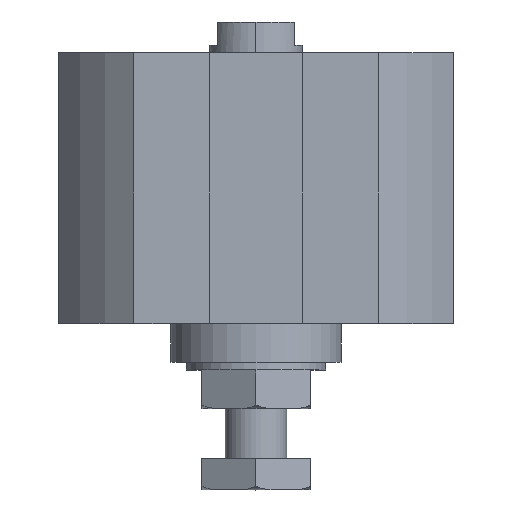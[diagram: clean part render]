
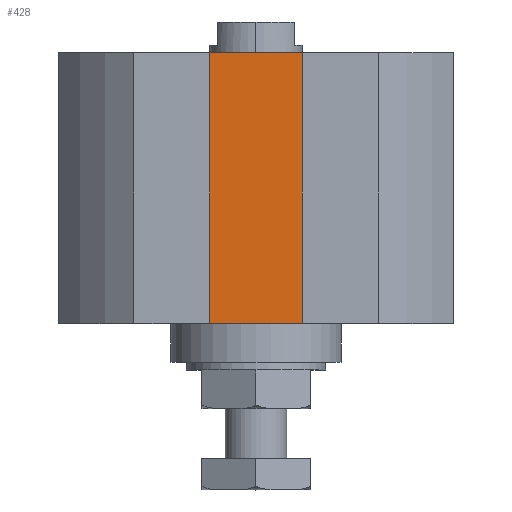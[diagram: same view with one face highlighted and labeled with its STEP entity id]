
A CAD part, top view. The second image highlights one B-rep face of the part: STEP entity #428.
In plain terms, the highlighted planar face has unit normal (0, 0, 1).
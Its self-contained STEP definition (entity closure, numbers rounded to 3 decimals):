
#15 = FACE_OUTER_BOUND ( 'NONE', #3223, .T. ) ;
#22 = VERTEX_POINT ( 'NONE', #347 ) ;
#36 = ORIENTED_EDGE ( 'NONE', *, *, #941, .F. ) ;
#263 = DIRECTION ( 'NONE',  ( 0., 0., 1. ) ) ;
#347 = CARTESIAN_POINT ( 'NONE',  ( -7.7, -35., 17. ) ) ;
#395 = CARTESIAN_POINT ( 'NONE',  ( 0., 0., 17. ) ) ;
#428 = ADVANCED_FACE ( 'NONE', ( #15 ), #1624, .T. ) ;
#649 = VECTOR ( 'NONE', #2411, 1000. ) ;
#701 = VECTOR ( 'NONE', #1878, 1000. ) ;
#752 = VECTOR ( 'NONE', #1763, 1000. ) ;
#916 = LINE ( 'NONE', #3576, #701 ) ;
#941 = EDGE_CURVE ( 'NONE', #22, #3235, #1238, .T. ) ;
#1112 = CARTESIAN_POINT ( 'NONE',  ( 7.7, -35., 17. ) ) ;
#1115 = CARTESIAN_POINT ( 'NONE',  ( 7.7, 0., 17. ) ) ;
#1238 = LINE ( 'NONE', #2081, #649 ) ;
#1264 = ORIENTED_EDGE ( 'NONE', *, *, #2543, .T. ) ;
#1437 = ORIENTED_EDGE ( 'NONE', *, *, #2079, .T. ) ;
#1624 = PLANE ( 'NONE',  #2007 ) ;
#1649 = CARTESIAN_POINT ( 'NONE',  ( -7.7, 0., 17. ) ) ;
#1763 = DIRECTION ( 'NONE',  ( 1., 0., 0. ) ) ;
#1869 = ORIENTED_EDGE ( 'NONE', *, *, #3129, .F. ) ;
#1878 = DIRECTION ( 'NONE',  ( 0., 1., 0. ) ) ;
#2007 = AXIS2_PLACEMENT_3D ( 'NONE', #3335, #263, #4128 ) ;
#2055 = VECTOR ( 'NONE', #3847, 1000. ) ;
#2079 = EDGE_CURVE ( 'NONE', #2488, #3792, #916, .T. ) ;
#2081 = CARTESIAN_POINT ( 'NONE',  ( -7.7, -35., 17. ) ) ;
#2411 = DIRECTION ( 'NONE',  ( 0., 1., 0. ) ) ;
#2488 = VERTEX_POINT ( 'NONE', #1112 ) ;
#2541 = LINE ( 'NONE', #395, #2055 ) ;
#2543 = EDGE_CURVE ( 'NONE', #22, #2488, #3844, .T. ) ;
#3129 = EDGE_CURVE ( 'NONE', #3235, #3792, #2541, .T. ) ;
#3223 = EDGE_LOOP ( 'NONE', ( #1869, #36, #1264, #1437 ) ) ;
#3235 = VERTEX_POINT ( 'NONE', #1649 ) ;
#3335 = CARTESIAN_POINT ( 'NONE',  ( 0., -35., 17. ) ) ;
#3576 = CARTESIAN_POINT ( 'NONE',  ( 7.7, -35., 17. ) ) ;
#3792 = VERTEX_POINT ( 'NONE', #1115 ) ;
#3813 = CARTESIAN_POINT ( 'NONE',  ( 0., -35., 17. ) ) ;
#3844 = LINE ( 'NONE', #3813, #752 ) ;
#3847 = DIRECTION ( 'NONE',  ( 1., 0., 0. ) ) ;
#4128 = DIRECTION ( 'NONE',  ( 1., 0., 0. ) ) ;
